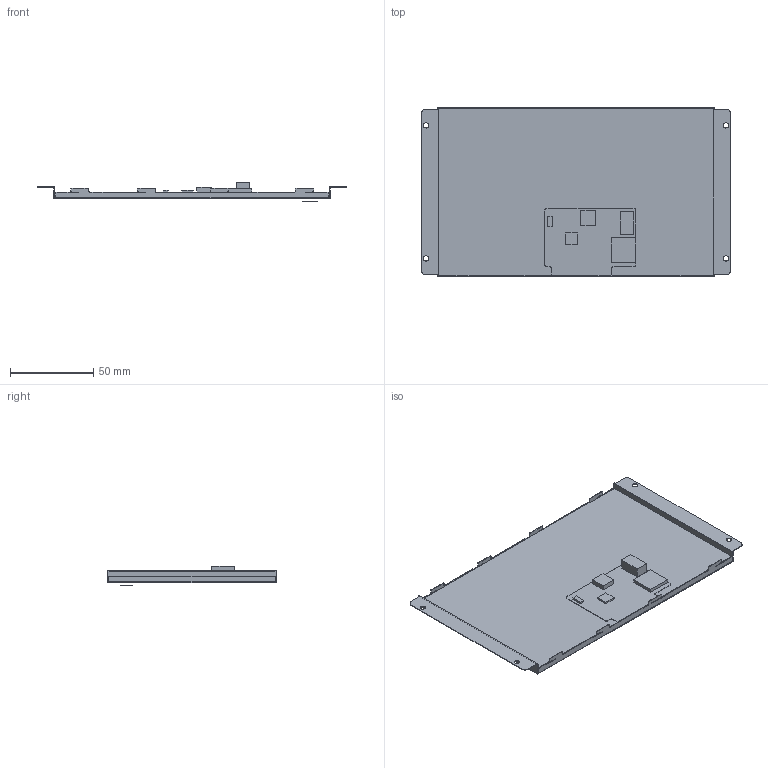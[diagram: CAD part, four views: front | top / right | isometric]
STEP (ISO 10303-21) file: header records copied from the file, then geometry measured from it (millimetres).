
FILE_DESCRIPTION(/* description */ (''),/* implementation_level */ '2;1');
FILE_NAME(/* name */ 'VTc070C01AN.stp',/* time_stamp */ '2026-05-29T09:46:12+08:00',/* author */ (''),/* organization */ (''),/* preprocessor_version */ 'ST-DEVELOPER v16',/* originating_system */ 'SIEMENS PLM Software NX 10.0',/* authorisation */ '');
FILE_SCHEMA (('AP203_CONFIGURATION_CONTROLLED_3D_DESIGN_OF_MECHANICAL_PARTS_AND_ASSEMBLIES_MIM_LF { 1 0 10303 403 2 1 2}'));
Length unit declared in the file: millimetre
Products named in the file (1): VTc070C01AN
Bounding box: 186.3 x 101.2 x 11.81 mm (x, y, z)
Volume: 59674.1 mm3; surface area: 82277.6 mm2
Topology: 7 solids, 7 shells, 184 faces, 495 edges, 330 vertices
Faces by surface type: plane 137, cylinder 42, extrusion 5
Full cylindrical faces by diameter (mm): 3.2 x4
Entity records: 6570 total; most frequent: CARTESIAN_POINT 1725, ORIENTED_EDGE 982, DIRECTION 830, EDGE_CURVE 491, VERTEX_POINT 330, VECTOR 302, LINE 297, AXIS2_PLACEMENT_3D 264
